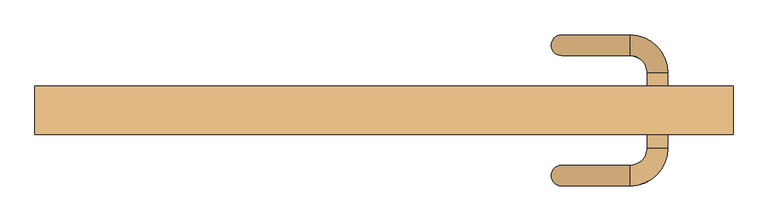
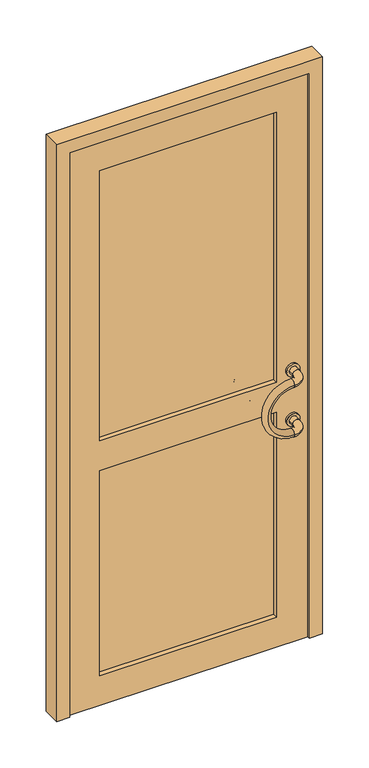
"""IFC4 building model written with IfcOpenShell, lengths in millimetres: door geometry, Simple vitrée : Simple vitrée."""

from ifc_helpers import new_model, si_unit, point, frame, frame_2d, origin, place, context, project, spatial, polyline, circle_curve, ellipse_curve, trimmed, segment, composite_curve, outline, extrude, source, transform, mapped, element, save
from ifc_brep_helpers import plane_surface, revolved_surface, advanced_brep


def door_d8181ab2(model_context):
    return source(origin(), model_context, "Body", "SolidModel", [
        extrude(outline(composite_curve([segment(trimmed(circle_curve(frame_2d((1100.0, 397.5352551)), 25.0), [point((1100.0, 422.5352551))], [point((1100.0, 372.5352551))], False, "CARTESIAN"), True, "CONTINUOUS"), segment(trimmed(circle_curve(frame_2d((1100.0, 397.5352551)), 25.0), [point((1100.0, 372.5352551))], [point((1100.0, 422.5352551))], False, "CARTESIAN"), True, "CONTINUOUS")], self_intersect=False), holes=[composite_curve([segment(trimmed(circle_curve(frame_2d((1100.0, 397.5352551)), 15.0), [point((1100.0, 412.5352551))], [point((1100.0, 382.5352551))], True, "CARTESIAN"), True, "CONTINUOUS"), segment(trimmed(circle_curve(frame_2d((1100.0, 397.5352551)), 15.0), [point((1100.0, 382.5352551))], [point((1100.0, 412.5352551))], True, "CARTESIAN"), True, "CONTINUOUS")], self_intersect=False)]), frame((0.0, 35.0, 0.0), z_axis=(0.0, 1.0, 0.0), x_axis=(0.0, 0.0, 1.0)), (0.0, 0.0, 1.0), 8.0),
        extrude(outline(composite_curve([segment(trimmed(circle_curve(frame_2d((900.0, 397.5352551)), 25.0), [point((900.0, 422.5352551))], [point((900.0, 372.5352551))], False, "CARTESIAN"), True, "CONTINUOUS"), segment(trimmed(circle_curve(frame_2d((900.0, 397.5352551)), 25.0), [point((900.0, 372.5352551))], [point((900.0, 422.5352551))], False, "CARTESIAN"), True, "CONTINUOUS")], self_intersect=False), holes=[composite_curve([segment(trimmed(circle_curve(frame_2d((900.0, 397.5352551)), 15.0), [point((900.0, 412.5352551))], [point((900.0, 382.5352551))], True, "CARTESIAN"), True, "CONTINUOUS"), segment(trimmed(circle_curve(frame_2d((900.0, 397.5352551)), 15.0), [point((900.0, 382.5352551))], [point((900.0, 412.5352551))], True, "CARTESIAN"), True, "CONTINUOUS")], self_intersect=False)]), frame((0.0, 35.0, 0.0), z_axis=(0.0, 1.0, 0.0), x_axis=(0.0, 0.0, 1.0)), (0.0, 0.0, 1.0), 8.0),
        extrude(outline(composite_curve([segment(trimmed(circle_curve(frame_2d((1100.0, 397.5352551)), 25.0), [point((1100.0, 422.5352551))], [point((1100.0, 372.5352551))], False, "CARTESIAN"), True, "CONTINUOUS"), segment(trimmed(circle_curve(frame_2d((1100.0, 397.5352551)), 25.0), [point((1100.0, 372.5352551))], [point((1100.0, 422.5352551))], False, "CARTESIAN"), True, "CONTINUOUS")], self_intersect=False), holes=[composite_curve([segment(trimmed(circle_curve(frame_2d((1100.0, 397.5352551)), 15.0), [point((1100.0, 412.5352551))], [point((1100.0, 382.5352551))], True, "CARTESIAN"), True, "CONTINUOUS"), segment(trimmed(circle_curve(frame_2d((1100.0, 397.5352551)), 15.0), [point((1100.0, 382.5352551))], [point((1100.0, 412.5352551))], True, "CARTESIAN"), True, "CONTINUOUS")], self_intersect=False)]), frame((0.0, -23.0, 0.0), z_axis=(0.0, 1.0, 0.0), x_axis=(0.0, 0.0, 1.0)), (0.0, 0.0, 1.0), 8.0),
        extrude(outline(composite_curve([segment(trimmed(circle_curve(frame_2d((900.0, 397.5352551)), 25.0), [point((900.0, 422.5352551))], [point((900.0, 372.5352551))], False, "CARTESIAN"), True, "CONTINUOUS"), segment(trimmed(circle_curve(frame_2d((900.0, 397.5352551)), 25.0), [point((900.0, 372.5352551))], [point((900.0, 422.5352551))], False, "CARTESIAN"), True, "CONTINUOUS")], self_intersect=False), holes=[composite_curve([segment(trimmed(circle_curve(frame_2d((900.0, 397.5352551)), 15.0), [point((900.0, 412.5352551))], [point((900.0, 382.5352551))], True, "CARTESIAN"), True, "CONTINUOUS"), segment(trimmed(circle_curve(frame_2d((900.0, 397.5352551)), 15.0), [point((900.0, 382.5352551))], [point((900.0, 412.5352551))], True, "CARTESIAN"), True, "CONTINUOUS")], self_intersect=False)]), frame((0.0, -23.0, 0.0), z_axis=(0.0, 1.0, 0.0), x_axis=(0.0, 0.0, 1.0)), (0.0, 0.0, 1.0), 8.0),
        advanced_brep(
        [(357.5352551, 120.0, 1100.0), (357.5352551, 90.0, 1100.0), (357.5352551, 120.0, 900.0), (357.5352551, 90.0, 900.0)],
        [
            (0, 1, circle_curve(frame((357.5352551, 105.0, 1100.0), z_axis=(1.0, 0.0, 0.0), x_axis=(0.0, -1.0, 0.0)), 15.0)),
            (1, 0, circle_curve(frame((357.5352551, 105.0, 1100.0), z_axis=(1.0, 0.0, 0.0), x_axis=(0.0, -1.0, 0.0)), 15.0)),
            (2, 3, circle_curve(frame((357.5352551, 105.0, 900.0), z_axis=(1.0, 0.0, 0.0), x_axis=(0.0, -1.0, 0.0)), 15.0)),
            (3, 2, circle_curve(frame((357.5352551, 105.0, 900.0), z_axis=(1.0, 0.0, 0.0), x_axis=(0.0, -1.0, 0.0)), 15.0)),
            (2, 0, circle_curve(frame((357.5352551, 120.0, 1000.0), z_axis=(0.0, 1.0, 0.0), x_axis=(0.0, 0.0, 1.0)), 100.0)),
            (1, 3, circle_curve(frame((357.5352551, 90.0, 1000.0), z_axis=(0.0, -1.0, 0.0), x_axis=(0.0, 0.0, 1.0)), 100.0)),
        ],
        [
            plane_surface(frame((357.5352551, 105.0, 1000.0), z_axis=(1.0, 0.0, 0.0), x_axis=(0.0, 0.0, 1.0))),
            plane_surface(frame((357.5352551, 105.0, 1000.0), z_axis=(1.0, 0.0, 0.0), x_axis=(0.0, 0.0, -1.0))),
            revolved_surface(trimmed(ellipse_curve(frame((357.5352551, 105.0, 1100.0), z_axis=(-1.0, 0.0, 0.0), x_axis=(0.0, -1.0, 0.0)), 15.0, 15.0), [point((357.5352551, 120.0, 1100.0))], [point((357.5352551, 90.0, 1100.0))], True, "CARTESIAN"), (357.5352551, 105.0, 1000.0), (0.0, 1.0, 0.0)),
            revolved_surface(trimmed(ellipse_curve(frame((357.5352551, 105.0, 1100.0), z_axis=(-1.0, 0.0, 0.0), x_axis=(0.0, -1.0, 0.0)), 15.0, 15.0), [point((357.5352551, 90.0, 1100.0))], [point((357.5352551, 120.0, 1100.0))], True, "CARTESIAN"), (357.5352551, 105.0, 1000.0), (0.0, 1.0, 0.0)),
        ],
        [
            (0, [[1, 2]]),
            (1, [[3, 4]]),
            (2, [[-3, 5, -2, 6]]),
            (3, [[-4, -6, -1, -5]]),
        ],
    ),
        advanced_brep(
        [(382.5352551, 65.0, 1100.0), (412.5352551, 65.0, 1100.0), (357.5352551, 90.0, 1100.0), (357.5352551, 120.0, 1100.0)],
        [
            (0, 1, circle_curve(frame((397.5352551, 65.0, 1100.0), z_axis=(0.0, -1.0, 0.0), x_axis=(1.0, 0.0, 0.0)), 15.0)),
            (1, 0, circle_curve(frame((397.5352551, 65.0, 1100.0), z_axis=(0.0, -1.0, 0.0), x_axis=(1.0, 0.0, 0.0)), 15.0)),
            (2, 3, circle_curve(frame((357.5352551, 105.0, 1100.0), z_axis=(-1.0, 0.0, 0.0), x_axis=(0.0, 1.0, 0.0)), 15.0)),
            (3, 2, circle_curve(frame((357.5352551, 105.0, 1100.0), z_axis=(-1.0, 0.0, 0.0), x_axis=(0.0, 1.0, 0.0)), 15.0)),
            (2, 0, circle_curve(frame((357.5352551, 65.0, 1100.0), z_axis=(0.0, 0.0, -1.0), x_axis=(1.0, 0.0, 0.0)), 25.0)),
            (1, 3, circle_curve(frame((357.5352551, 65.0, 1100.0), z_axis=(0.0, 0.0, 1.0), x_axis=(1.0, 0.0, 0.0)), 55.0)),
        ],
        [
            plane_surface(frame((357.5352551, 65.0, 1100.0), z_axis=(0.0, -1.0, 0.0), x_axis=(1.0, 0.0, 0.0))),
            plane_surface(frame((357.5352551, 65.0, 1100.0), z_axis=(-1.0, 0.0, 0.0), x_axis=(0.0, 1.0, 0.0))),
            revolved_surface(trimmed(ellipse_curve(frame((397.5352551, 65.0, 1100.0), z_axis=(0.0, 1.0, 0.0), x_axis=(1.0, 0.0, 0.0)), 15.0, 15.0), [point((382.5352551, 65.0, 1100.0))], [point((412.5352551, 65.0, 1100.0))], True, "CARTESIAN"), (357.5352551, 65.0, 1100.0), (0.0, 0.0, -1.0)),
            revolved_surface(trimmed(ellipse_curve(frame((397.5352551, 65.0, 1100.0), z_axis=(0.0, 1.0, 0.0), x_axis=(1.0, 0.0, 0.0)), 15.0, 15.0), [point((412.5352551, 65.0, 1100.0))], [point((382.5352551, 65.0, 1100.0))], True, "CARTESIAN"), (357.5352551, 65.0, 1100.0), (0.0, 0.0, -1.0)),
        ],
        [
            (0, [[1, 2]]),
            (1, [[3, 4]]),
            (2, [[-3, 5, -2, 6]]),
            (3, [[-4, -6, -1, -5]]),
        ],
    ),
        advanced_brep(
        [(382.5352551, 65.0, 900.0), (412.5352551, 65.0, 900.0), (357.5352551, 90.0, 900.0), (357.5352551, 120.0, 900.0)],
        [
            (0, 1, circle_curve(frame((397.5352551, 65.0, 900.0), z_axis=(0.0, -1.0, 0.0), x_axis=(1.0, 0.0, 0.0)), 15.0)),
            (1, 0, circle_curve(frame((397.5352551, 65.0, 900.0), z_axis=(0.0, -1.0, 0.0), x_axis=(1.0, 0.0, 0.0)), 15.0)),
            (2, 3, circle_curve(frame((357.5352551, 105.0, 900.0), z_axis=(-1.0, 0.0, 0.0), x_axis=(0.0, 1.0, 0.0)), 15.0)),
            (3, 2, circle_curve(frame((357.5352551, 105.0, 900.0), z_axis=(-1.0, 0.0, 0.0), x_axis=(0.0, 1.0, 0.0)), 15.0)),
            (2, 0, circle_curve(frame((357.5352551, 65.0, 900.0), z_axis=(0.0, 0.0, -1.0), x_axis=(1.0, 0.0, 0.0)), 25.0)),
            (1, 3, circle_curve(frame((357.5352551, 65.0, 900.0), z_axis=(0.0, 0.0, 1.0), x_axis=(1.0, 0.0, 0.0)), 55.0)),
        ],
        [
            plane_surface(frame((357.5352551, 65.0, 1100.0), z_axis=(0.0, -1.0, 0.0), x_axis=(1.0, 0.0, 0.0))),
            plane_surface(frame((357.5352551, 65.0, 1100.0), z_axis=(-1.0, 0.0, 0.0), x_axis=(0.0, 1.0, 0.0))),
            revolved_surface(trimmed(ellipse_curve(frame((397.5352551, 65.0, 900.0), z_axis=(0.0, 1.0, 0.0), x_axis=(1.0, 0.0, 0.0)), 15.0, 15.0), [point((382.5352551, 65.0, 900.0))], [point((412.5352551, 65.0, 900.0))], True, "CARTESIAN"), (357.5352551, 65.0, 1100.0), (0.0, 0.0, -1.0)),
            revolved_surface(trimmed(ellipse_curve(frame((397.5352551, 65.0, 900.0), z_axis=(0.0, 1.0, 0.0), x_axis=(1.0, 0.0, 0.0)), 15.0, 15.0), [point((412.5352551, 65.0, 900.0))], [point((382.5352551, 65.0, 900.0))], True, "CARTESIAN"), (357.5352551, 65.0, 1100.0), (0.0, 0.0, -1.0)),
        ],
        [
            (0, [[1, 2]]),
            (1, [[3, 4]]),
            (2, [[-3, 5, -2, 6]]),
            (3, [[-4, -6, -1, -5]]),
        ],
    ),
        extrude(outline(composite_curve([segment(trimmed(circle_curve(frame_2d((1100.0, 397.5352551)), 15.0), [point((1100.0, 412.5352551))], [point((1100.0, 382.5352551))], False, "CARTESIAN"), True, "CONTINUOUS"), segment(trimmed(circle_curve(frame_2d((1100.0, 397.5352551)), 15.0), [point((1100.0, 382.5352551))], [point((1100.0, 412.5352551))], False, "CARTESIAN"), True, "CONTINUOUS")], self_intersect=False)), frame((0.0, 35.0, 0.0), z_axis=(0.0, 1.0, 0.0), x_axis=(0.0, 0.0, 1.0)), (0.0, 0.0, 1.0), 30.0),
        extrude(outline(composite_curve([segment(trimmed(circle_curve(frame_2d((900.0, 397.5352551)), 15.0), [point((900.0, 412.5352551))], [point((900.0, 382.5352551))], False, "CARTESIAN"), True, "CONTINUOUS"), segment(trimmed(circle_curve(frame_2d((900.0, 397.5352551)), 15.0), [point((900.0, 382.5352551))], [point((900.0, 412.5352551))], False, "CARTESIAN"), True, "CONTINUOUS")], self_intersect=False)), frame((0.0, 35.0, 0.0), z_axis=(0.0, 1.0, 0.0), x_axis=(0.0, 0.0, 1.0)), (0.0, 0.0, 1.0), 30.0),
        advanced_brep(
        [(357.5352551, -70.0, 1100.0), (357.5352551, -100.0, 1100.0), (357.5352551, -70.0, 900.0), (357.5352551, -100.0, 900.0)],
        [
            (0, 1, circle_curve(frame((357.5352551, -85.0, 1100.0), z_axis=(1.0, 0.0, 0.0), x_axis=(0.0, -1.0, 0.0)), 15.0)),
            (1, 0, circle_curve(frame((357.5352551, -85.0, 1100.0), z_axis=(1.0, 0.0, 0.0), x_axis=(0.0, -1.0, 0.0)), 15.0)),
            (2, 3, circle_curve(frame((357.5352551, -85.0, 900.0), z_axis=(1.0, 0.0, 0.0), x_axis=(0.0, -1.0, 0.0)), 15.0)),
            (3, 2, circle_curve(frame((357.5352551, -85.0, 900.0), z_axis=(1.0, 0.0, 0.0), x_axis=(0.0, -1.0, 0.0)), 15.0)),
            (2, 0, circle_curve(frame((357.5352551, -70.0, 1000.0), z_axis=(0.0, 1.0, 0.0), x_axis=(0.0, 0.0, 1.0)), 100.0)),
            (1, 3, circle_curve(frame((357.5352551, -100.0, 1000.0), z_axis=(0.0, -1.0, 0.0), x_axis=(0.0, 0.0, 1.0)), 100.0)),
        ],
        [
            plane_surface(frame((357.5352551, -100.0, 1000.0), z_axis=(1.0, 0.0, 0.0), x_axis=(0.0, 0.0, 1.0))),
            plane_surface(frame((357.5352551, -100.0, 1000.0), z_axis=(1.0, 0.0, 0.0), x_axis=(0.0, 0.0, -1.0))),
            revolved_surface(trimmed(ellipse_curve(frame((357.5352551, -85.0, 1100.0), z_axis=(-1.0, 0.0, 0.0), x_axis=(0.0, -1.0, 0.0)), 15.0, 15.0), [point((357.5352551, -70.0, 1100.0))], [point((357.5352551, -100.0, 1100.0))], True, "CARTESIAN"), (357.5352551, -100.0, 1000.0), (0.0, 1.0, 0.0)),
            revolved_surface(trimmed(ellipse_curve(frame((357.5352551, -85.0, 1100.0), z_axis=(-1.0, 0.0, 0.0), x_axis=(0.0, -1.0, 0.0)), 15.0, 15.0), [point((357.5352551, -100.0, 1100.0))], [point((357.5352551, -70.0, 1100.0))], True, "CARTESIAN"), (357.5352551, -100.0, 1000.0), (0.0, 1.0, 0.0)),
        ],
        [
            (0, [[1, 2]]),
            (1, [[3, 4]]),
            (2, [[-3, 5, -2, 6]]),
            (3, [[-4, -6, -1, -5]]),
        ],
    ),
        advanced_brep(
        [(412.5352551, -45.0, 1100.0), (382.5352551, -45.0, 1100.0), (357.5352551, -100.0, 1100.0), (357.5352551, -70.0, 1100.0)],
        [
            (0, 1, circle_curve(frame((397.5352551, -45.0, 1100.0), z_axis=(0.0, 1.0, 0.0), x_axis=(-1.0, 0.0, 0.0)), 15.0)),
            (1, 0, circle_curve(frame((397.5352551, -45.0, 1100.0), z_axis=(0.0, 1.0, 0.0), x_axis=(-1.0, 0.0, 0.0)), 15.0)),
            (2, 3, circle_curve(frame((357.5352551, -85.0, 1100.0), z_axis=(-1.0, 0.0, 0.0), x_axis=(0.0, 1.0, 0.0)), 15.0)),
            (3, 2, circle_curve(frame((357.5352551, -85.0, 1100.0), z_axis=(-1.0, 0.0, 0.0), x_axis=(0.0, 1.0, 0.0)), 15.0)),
            (2, 0, circle_curve(frame((357.5352551, -45.0, 1100.0), z_axis=(0.0, 0.0, 1.0), x_axis=(1.0, 0.0, 0.0)), 55.0)),
            (1, 3, circle_curve(frame((357.5352551, -45.0, 1100.0), z_axis=(0.0, 0.0, -1.0), x_axis=(1.0, 0.0, 0.0)), 25.0)),
        ],
        [
            plane_surface(frame((357.5352551, -45.0, 1100.0), z_axis=(0.0, 1.0, 0.0), x_axis=(1.0, 0.0, 0.0))),
            plane_surface(frame((357.5352551, -45.0, 1100.0), z_axis=(-1.0, 0.0, 0.0), x_axis=(0.0, -1.0, 0.0))),
            revolved_surface(trimmed(ellipse_curve(frame((397.5352551, -45.0, 1100.0), z_axis=(0.0, -1.0, 0.0), x_axis=(-1.0, 0.0, 0.0)), 15.0, 15.0), [point((412.5352551, -45.0, 1100.0))], [point((382.5352551, -45.0, 1100.0))], True, "CARTESIAN"), (357.5352551, -45.0, 1100.0), (0.0, 0.0, 1.0)),
            revolved_surface(trimmed(ellipse_curve(frame((397.5352551, -45.0, 1100.0), z_axis=(0.0, -1.0, 0.0), x_axis=(-1.0, 0.0, 0.0)), 15.0, 15.0), [point((382.5352551, -45.0, 1100.0))], [point((412.5352551, -45.0, 1100.0))], True, "CARTESIAN"), (357.5352551, -45.0, 1100.0), (0.0, 0.0, 1.0)),
        ],
        [
            (0, [[1, 2]]),
            (1, [[3, 4]]),
            (2, [[-3, 5, -2, 6]]),
            (3, [[-4, -6, -1, -5]]),
        ],
    ),
        advanced_brep(
        [(412.5352551, -45.0, 900.0), (382.5352551, -45.0, 900.0), (357.5352551, -100.0, 900.0), (357.5352551, -70.0, 900.0)],
        [
            (0, 1, circle_curve(frame((397.5352551, -45.0, 900.0), z_axis=(0.0, 1.0, 0.0), x_axis=(-1.0, 0.0, 0.0)), 15.0)),
            (1, 0, circle_curve(frame((397.5352551, -45.0, 900.0), z_axis=(0.0, 1.0, 0.0), x_axis=(-1.0, 0.0, 0.0)), 15.0)),
            (2, 3, circle_curve(frame((357.5352551, -85.0, 900.0), z_axis=(-1.0, 0.0, 0.0), x_axis=(0.0, 1.0, 0.0)), 15.0)),
            (3, 2, circle_curve(frame((357.5352551, -85.0, 900.0), z_axis=(-1.0, 0.0, 0.0), x_axis=(0.0, 1.0, 0.0)), 15.0)),
            (2, 0, circle_curve(frame((357.5352551, -45.0, 900.0), z_axis=(0.0, 0.0, 1.0), x_axis=(1.0, 0.0, 0.0)), 55.0)),
            (1, 3, circle_curve(frame((357.5352551, -45.0, 900.0), z_axis=(0.0, 0.0, -1.0), x_axis=(1.0, 0.0, 0.0)), 25.0)),
        ],
        [
            plane_surface(frame((357.5352551, -45.0, 1100.0), z_axis=(0.0, 1.0, 0.0), x_axis=(1.0, 0.0, 0.0))),
            plane_surface(frame((357.5352551, -45.0, 1100.0), z_axis=(-1.0, 0.0, 0.0), x_axis=(0.0, -1.0, 0.0))),
            revolved_surface(trimmed(ellipse_curve(frame((397.5352551, -45.0, 900.0), z_axis=(0.0, -1.0, 0.0), x_axis=(-1.0, 0.0, 0.0)), 15.0, 15.0), [point((412.5352551, -45.0, 900.0))], [point((382.5352551, -45.0, 900.0))], True, "CARTESIAN"), (357.5352551, -45.0, 1100.0), (0.0, 0.0, 1.0)),
            revolved_surface(trimmed(ellipse_curve(frame((397.5352551, -45.0, 900.0), z_axis=(0.0, -1.0, 0.0), x_axis=(-1.0, 0.0, 0.0)), 15.0, 15.0), [point((382.5352551, -45.0, 900.0))], [point((412.5352551, -45.0, 900.0))], True, "CARTESIAN"), (357.5352551, -45.0, 1100.0), (0.0, 0.0, 1.0)),
        ],
        [
            (0, [[1, 2]]),
            (1, [[3, 4]]),
            (2, [[-3, 5, -2, 6]]),
            (3, [[-4, -6, -1, -5]]),
        ],
    ),
        extrude(outline(composite_curve([segment(trimmed(circle_curve(frame_2d((1100.0, 397.5352551)), 15.0), [point((1100.0, 412.5352551))], [point((1100.0, 382.5352551))], False, "CARTESIAN"), True, "CONTINUOUS"), segment(trimmed(circle_curve(frame_2d((1100.0, 397.5352551)), 15.0), [point((1100.0, 382.5352551))], [point((1100.0, 412.5352551))], False, "CARTESIAN"), True, "CONTINUOUS")], self_intersect=False)), frame((0.0, -45.0, 0.0), z_axis=(0.0, 1.0, 0.0), x_axis=(0.0, 0.0, 1.0)), (0.0, 0.0, 1.0), 30.0),
        extrude(outline(composite_curve([segment(trimmed(circle_curve(frame_2d((900.0, 397.5352551)), 15.0), [point((900.0, 412.5352551))], [point((900.0, 382.5352551))], False, "CARTESIAN"), True, "CONTINUOUS"), segment(trimmed(circle_curve(frame_2d((900.0, 397.5352551)), 15.0), [point((900.0, 382.5352551))], [point((900.0, 412.5352551))], False, "CARTESIAN"), True, "CONTINUOUS")], self_intersect=False)), frame((0.0, -45.0, 0.0), z_axis=(0.0, 1.0, 0.0), x_axis=(0.0, 0.0, 1.0)), (0.0, 0.0, 1.0), 30.0),
        extrude(outline(polyline([(0.0, -507.5352551), (0.0, -457.5352551), (2278.3333333, -457.5352551), (2278.3333333, 457.5352551), (0.0, 457.5352551), (0.0, 507.5352551), (2328.3333333, 507.5352551), (2328.3333333, -507.5352551), (0.0, -507.5352551)])), frame((0.0, -25.0, 0.0), z_axis=(0.0, 1.0, 0.0), x_axis=(0.0, 0.0, 1.0)), (0.0, 0.0, 1.0), 70.0),
        extrude(outline(polyline([(337.5352551, 5.0), (-337.5352551, 5.0), (-337.5352551, 15.0), (337.5352551, 15.0), (337.5352551, 5.0)])), frame((0.0, 0.0, 120.0), z_axis=(0.0, 0.0, 1.0), x_axis=(1.0, 0.0, 0.0)), (0.0, 0.0, 1.0), 2038.3333333),
        extrude(outline(polyline([(2278.3333333, 457.5352551), (2278.3333333, -457.5352551), (0.0, -457.5352551), (0.0, 457.5352551), (2278.3333333, 457.5352551)]), holes=[polyline([(2158.3333333, 337.5352551), (1067.5687603, 337.5352551), (1067.5687603, -337.5352551), (2158.3333333, -337.5352551), (2158.3333333, 337.5352551)]), polyline([(947.5687603, -337.5352551), (947.5687603, 337.5352551), (120.0, 337.5352551), (120.0, -337.5352551), (947.5687603, -337.5352551)])]), frame((0.0, -15.0, 0.0), z_axis=(0.0, 1.0, 0.0), x_axis=(0.0, 0.0, 1.0)), (0.0, 0.0, 1.0), 50.0),
    ])


if __name__ == "__main__":
    model = new_model("IFC4")
    model_context = context("Model", 3, world=origin())
    ifc_project = project(units=[si_unit("LENGTHUNIT", "METRE", prefix="MILLI")], contexts=[model_context])
    site = spatial("IfcSite", under=ifc_project)
    building = spatial("IfcBuilding", under=site)
    placement = place(None, origin())
    door_shape = door_d8181ab2(model_context)
    element("IfcDoor", 1, ObjectType="Simple vitrée : Simple vitrée", at=placement, inside=building, context=model_context, shape_type="MappedRepresentation", body=[
        mapped(door_shape, transform((0.0, 0.0, 0.0), x_axis=(1.0, 0.0, 0.0), y_axis=(0.0, 1.0, 0.0), z_axis=(0.0, 0.0, 1.0))),
    ])
    save(model, "model.ifc")
